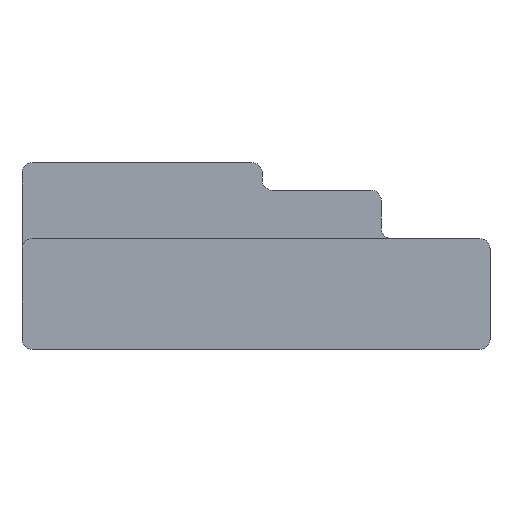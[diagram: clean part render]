
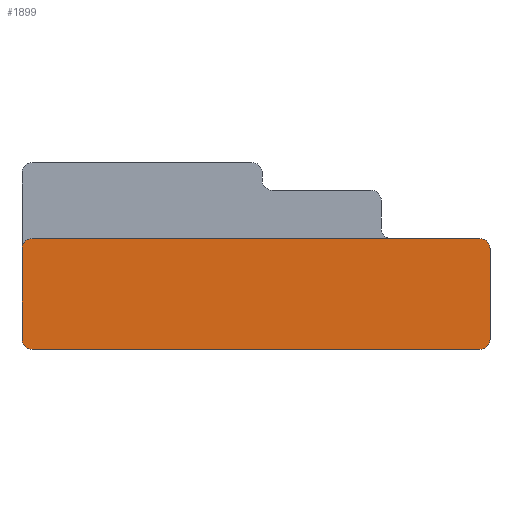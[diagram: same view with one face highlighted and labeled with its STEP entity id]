
A CAD part, front view. The second image highlights one B-rep face of the part: STEP entity #1899.
In plain terms, the highlighted planar face has unit normal (0, -1, 0).
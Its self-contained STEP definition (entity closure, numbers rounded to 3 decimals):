
#27=LINE('',#2686,#257);
#55=LINE('',#2751,#285);
#103=LINE('',#2871,#333);
#113=LINE('',#2892,#343);
#257=VECTOR('',#2161,1000.);
#285=VECTOR('',#2215,1000.);
#333=VECTOR('',#2323,1000.);
#343=VECTOR('',#2345,1000.);
#507=PLANE('',#2041);
#730=ORIENTED_EDGE('',*,*,#1231,.F.);
#731=ORIENTED_EDGE('',*,*,#1155,.T.);
#732=ORIENTED_EDGE('',*,*,#1158,.T.);
#733=ORIENTED_EDGE('',*,*,#1234,.T.);
#734=ORIENTED_EDGE('',*,*,#1126,.T.);
#735=ORIENTED_EDGE('',*,*,#1123,.T.);
#736=ORIENTED_EDGE('',*,*,#1218,.F.);
#737=ORIENTED_EDGE('',*,*,#1233,.T.);
#1123=EDGE_CURVE('',#1401,#1399,#1581,.T.);
#1126=EDGE_CURVE('',#1403,#1401,#27,.T.);
#1155=EDGE_CURVE('',#1425,#1423,#1585,.T.);
#1158=EDGE_CURVE('',#1423,#1427,#55,.T.);
#1218=EDGE_CURVE('',#1469,#1399,#103,.T.);
#1231=EDGE_CURVE('',#1425,#1474,#113,.T.);
#1233=EDGE_CURVE('',#1469,#1474,#1602,.T.);
#1234=EDGE_CURVE('',#1427,#1403,#1603,.T.);
#1399=VERTEX_POINT('',#2678);
#1401=VERTEX_POINT('',#2681);
#1403=VERTEX_POINT('',#2687);
#1423=VERTEX_POINT('',#2743);
#1425=VERTEX_POINT('',#2746);
#1427=VERTEX_POINT('',#2752);
#1469=VERTEX_POINT('',#2872);
#1474=VERTEX_POINT('',#2893);
#1581=CIRCLE('',#1987,0.5);
#1585=CIRCLE('',#2000,0.5);
#1602=CIRCLE('',#2040,0.5);
#1603=CIRCLE('',#2042,0.5);
#1664=EDGE_LOOP('',(#730,#731,#732,#733,#734,#735,#736,#737));
#1771=FACE_BOUND('',#1664,.T.);
#1899=ADVANCED_FACE('',(#1771),#507,.T.);
#1987=AXIS2_PLACEMENT_3D('',#2680,#2154,#2155);
#2000=AXIS2_PLACEMENT_3D('',#2745,#2208,#2209);
#2040=AXIS2_PLACEMENT_3D('',#2896,#2349,#2350);
#2041=AXIS2_PLACEMENT_3D('',#2897,#2351,#2352);
#2042=AXIS2_PLACEMENT_3D('',#2898,#2353,#2354);
#2154=DIRECTION('',(0.,-1.,0.));
#2155=DIRECTION('',(1.,0.,0.));
#2161=DIRECTION('',(0.,0.,1.));
#2208=DIRECTION('',(0.,-1.,0.));
#2209=DIRECTION('',(-1.,0.,0.));
#2215=DIRECTION('',(1.,0.,0.));
#2323=DIRECTION('',(1.,0.,0.));
#2345=DIRECTION('',(0.,0.,1.));
#2349=DIRECTION('',(0.,-1.,0.));
#2350=DIRECTION('',(0.,0.,1.));
#2351=DIRECTION('',(0.,-1.,0.));
#2352=DIRECTION('',(1.,0.,0.));
#2353=DIRECTION('',(0.,-1.,0.));
#2354=DIRECTION('',(0.,0.,-1.));
#2678=CARTESIAN_POINT('',(10.9,-11.6,5.4));
#2680=CARTESIAN_POINT('',(10.9,-11.6,4.9));
#2681=CARTESIAN_POINT('',(11.4,-11.6,4.9));
#2686=CARTESIAN_POINT('',(11.4,-11.6,0.5));
#2687=CARTESIAN_POINT('',(11.4,-11.6,0.5));
#2743=CARTESIAN_POINT('',(-10.9,-11.6,0.));
#2745=CARTESIAN_POINT('',(-10.9,-11.6,0.5));
#2746=CARTESIAN_POINT('',(-11.4,-11.6,0.5));
#2751=CARTESIAN_POINT('',(-10.9,-11.6,0.));
#2752=CARTESIAN_POINT('',(10.9,-11.6,0.));
#2871=CARTESIAN_POINT('',(-10.9,-11.6,5.4));
#2872=CARTESIAN_POINT('',(-10.9,-11.6,5.4));
#2892=CARTESIAN_POINT('',(-11.4,-11.6,0.5));
#2893=CARTESIAN_POINT('',(-11.4,-11.6,4.9));
#2896=CARTESIAN_POINT('',(-10.9,-11.6,4.9));
#2897=CARTESIAN_POINT('',(-11.4,-11.6,0.));
#2898=CARTESIAN_POINT('',(10.9,-11.6,0.5));
